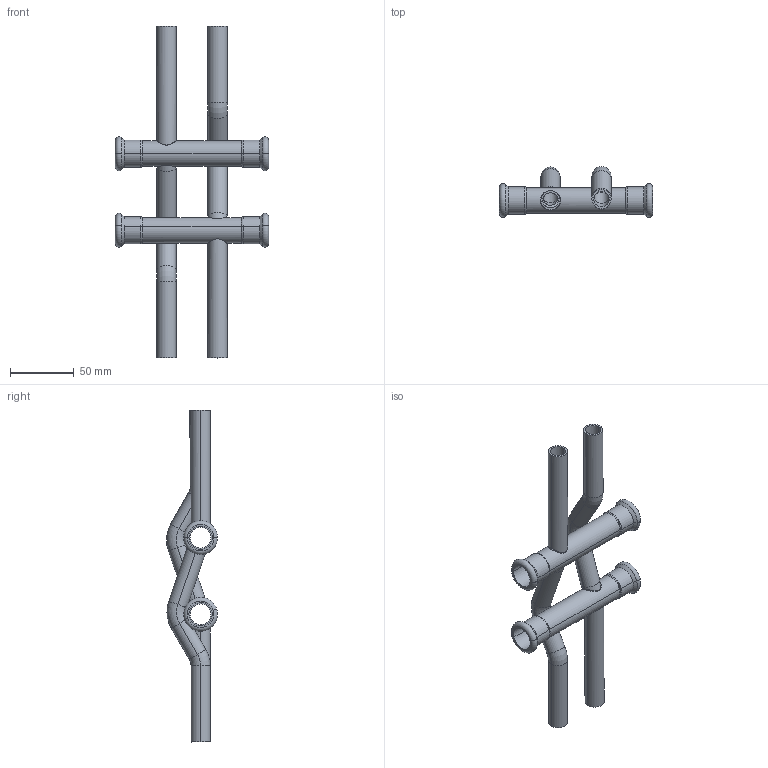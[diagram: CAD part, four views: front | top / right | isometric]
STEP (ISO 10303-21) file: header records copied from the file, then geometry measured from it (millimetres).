
FILE_DESCRIPTION(('CoCreate Modeling STEP Export'),'2;1');
FILE_NAME('C1436 18x15.stp','2015-08-12T 9:20:31',(''),(''),'CoCreate Modeling STEP processor for AP214 (Solid Model)','CoCreate Modeling 17.00A 17-Jun-2010 (C) Parametric Technology GmbH','');
FILE_SCHEMA(('AUTOMOTIVE_DESIGN { 1 0 10303 214 1 1 1 1 }'));
Length unit declared in the file: millimetre
Products named in the file (5): 620867.5.1.2; 620867.5.1.1.1; 620861.1.1.1; 620861.1.1; C1436-18x15
Assembly tree (4 placements, depth 2):
  C1436-18x15
    620861.1.1
    620861.1.1.1
    620867.5.1.1.1
    620867.5.1.2
Bounding box: 120 x 39.96 x 260.08 mm (x, y, z)
Volume: 56401.2 mm3; surface area: 72184.6 mm2
Topology: 4 solids, 4 shells, 148 faces, 324 edges, 196 vertices
Faces by surface type: cylinder 72, torus 32, plane 20, cone 16, bspline 8
Entity records: 12847 total; most frequent: CARTESIAN_POINT 9949, ORIENTED_EDGE 648, DIRECTION 490, EDGE_CURVE 324, AXIS2_PLACEMENT_3D 201, VERTEX_POINT 196, EDGE_LOOP 176, FACE_OUTER_BOUND 148
